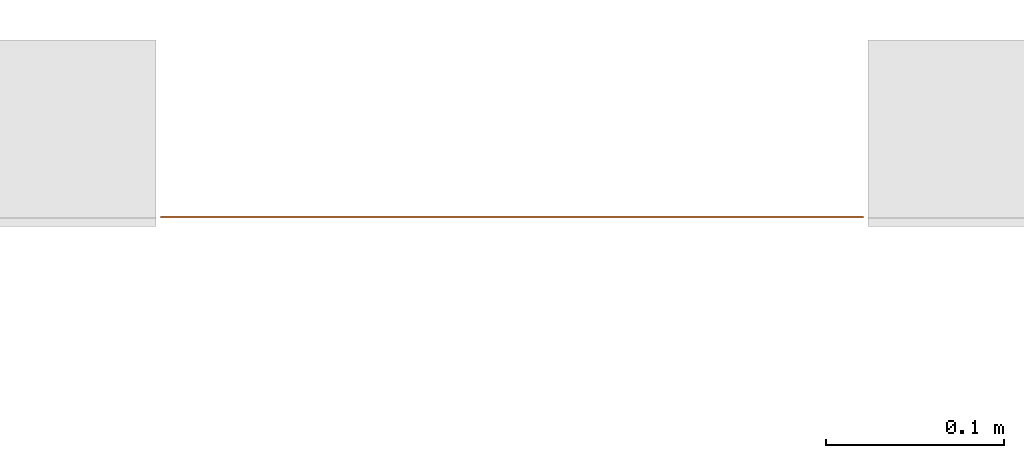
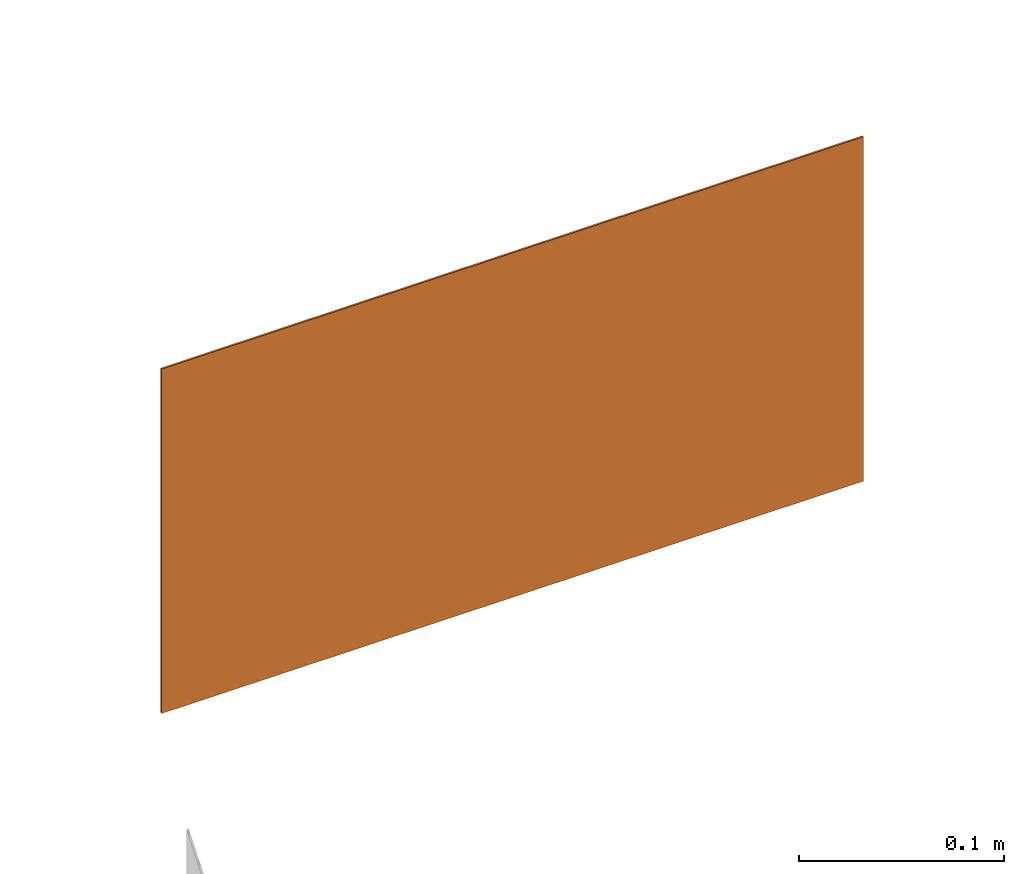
# One storey, part 67 of 119: 1 proxy.
"""IFC2X3 building model written with IfcOpenShell, lengths in metres."""

from ifc_helpers import new_model, entity, si_unit, converted_unit, derived_unit, direction, frame, frame_2d, origin, origin_2d_with_axis, place, context, subcontext, project, spatial, polyline, circle_curve, parameter, trimmed, segment, composite_curve, rectangle, outline, extrude, source, transform, mapped, material, material_list, type_object, type_shapes, element, save


model = new_model("IFC2X3")

# Units and contexts
model_context = context("Model", 3, precision=1e-05, world=origin(), true_north=direction((6.12303176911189e-17, 1.0)))
body_context = subcontext(model_context, "Body", "Model", "MODEL_VIEW")
ifc_project = project(units=[si_unit("LENGTHUNIT", "METRE"), si_unit("AREAUNIT", "SQUARE_METRE"), si_unit("VOLUMEUNIT", "CUBIC_METRE"), converted_unit("PLANEANGLEUNIT", "DEGREE", entity("IfcRatioMeasure", 0.0174532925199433), si_unit("PLANEANGLEUNIT", "RADIAN"), dimensions=[0, 0, 0, 0, 0, 0, 0]), si_unit("MASSUNIT", "GRAM", prefix="KILO"), derived_unit("MASSDENSITYUNIT", [(si_unit("MASSUNIT", "GRAM", prefix="KILO"), 1), (si_unit("LENGTHUNIT", "METRE"), -3)]), derived_unit("MOMENTOFINERTIAUNIT", [(si_unit("LENGTHUNIT", "METRE"), 4)]), si_unit("TIMEUNIT", "SECOND"), si_unit("FREQUENCYUNIT", "HERTZ"), si_unit("THERMODYNAMICTEMPERATUREUNIT", "DEGREE_CELSIUS"), derived_unit("THERMALTRANSMITTANCEUNIT", [(si_unit("MASSUNIT", "GRAM", prefix="KILO"), 1), (si_unit("THERMODYNAMICTEMPERATUREUNIT", "KELVIN"), -1), (si_unit("TIMEUNIT", "SECOND"), -3)]), derived_unit("VOLUMETRICFLOWRATEUNIT", [(si_unit("LENGTHUNIT", "METRE"), 3), (si_unit("TIMEUNIT", "SECOND"), -1)]), si_unit("ELECTRICCURRENTUNIT", "AMPERE"), si_unit("ELECTRICVOLTAGEUNIT", "VOLT"), si_unit("POWERUNIT", "WATT"), si_unit("FORCEUNIT", "NEWTON", prefix="KILO"), si_unit("ILLUMINANCEUNIT", "LUX"), si_unit("LUMINOUSFLUXUNIT", "LUMEN"), si_unit("LUMINOUSINTENSITYUNIT", "CANDELA"), derived_unit("USERDEFINED", [(si_unit("MASSUNIT", "GRAM", prefix="KILO"), -1), (si_unit("LENGTHUNIT", "METRE"), -2), (si_unit("TIMEUNIT", "SECOND"), 3), (si_unit("LUMINOUSFLUXUNIT", "LUMEN"), 1)]), derived_unit("LINEARVELOCITYUNIT", [(si_unit("LENGTHUNIT", "METRE"), 1), (si_unit("TIMEUNIT", "SECOND"), -1)]), si_unit("PRESSUREUNIT", "PASCAL"), derived_unit("USERDEFINED", [(si_unit("LENGTHUNIT", "METRE"), -2), (si_unit("MASSUNIT", "GRAM", prefix="KILO"), 1), (si_unit("TIMEUNIT", "SECOND"), -2)]), derived_unit("LINEARFORCEUNIT", [(si_unit("MASSUNIT", "GRAM", prefix="KILO"), 1), (si_unit("LENGTHUNIT", "METRE"), 1), (si_unit("TIMEUNIT", "SECOND"), -2), (si_unit("LENGTHUNIT", "METRE"), -1)]), derived_unit("PLANARFORCEUNIT", [(si_unit("MASSUNIT", "GRAM", prefix="KILO"), 1), (si_unit("LENGTHUNIT", "METRE"), 1), (si_unit("TIMEUNIT", "SECOND"), -2), (si_unit("LENGTHUNIT", "METRE"), -2)])], contexts=[model_context])

# Site, building, storey
site_placement = place(None, origin())
site = spatial("IfcSite", under=ifc_project, at=site_placement, Name="Default", CompositionType="ELEMENT")
building_placement = place(site_placement, origin())
building = spatial("IfcBuilding", under=site, at=building_placement, CompositionType="ELEMENT")
storey_placement = place(building_placement, origin())
storey = spatial("IfcBuildingStorey", under=building, at=storey_placement, Name="PAV. 01 - TÉRREO", CompositionType="ELEMENT", Elevation=0.0)

# Proxy
ifc_material_1 = material(Name="Plastico branco")
ifc_material_2 = material(Name="Plastico Verde")
ifc_material_list = material_list([ifc_material_1, ifc_material_2])
building_element_proxy_type = type_object("IfcBuildingElementProxyType", Name="Sinalização de orientação - S02 - Indicação do sentido da saída de emergência esquerda:Distância 12m", PredefinedType="NOTDEFINED", material=ifc_material_1)
shared_shape = source(origin(), body_context, "Body", "SweptSolid", [
    extrude(outline(polyline([(-0.0269307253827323, -0.024231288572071), (-0.0259628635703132, -0.024231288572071), (-0.0248498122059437, -0.0234083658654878), (-0.0236286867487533, -0.0219305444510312), (-0.0223366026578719, -0.0199658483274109), (-0.0210106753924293, -0.0176823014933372), (-0.0159905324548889, -0.00832626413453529), (-0.0136800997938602, -0.00426313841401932), (-0.0125256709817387, -0.00238736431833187), (-0.0113513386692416, -0.000610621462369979), (-0.0101417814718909, 0.0010707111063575), (-0.00888166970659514, 0.00266026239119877), (-0.00754048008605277, 0.00417640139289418), (-0.00604105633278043, 0.00568273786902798), (-0.00429732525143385, 0.00725153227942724), (-0.00222321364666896, 0.00895504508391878), (0.000267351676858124, 0.010865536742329), (0.0161156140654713, 0.0220225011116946), (0.00541084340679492, 0.027666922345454), (0.004563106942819, 0.0280964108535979), (0.00398677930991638, 0.0283743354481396), (0.00361343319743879, 0.0285356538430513), (0.00337464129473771, 0.0286153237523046), (0.0032019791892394, 0.0286482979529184), (0.00303386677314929, 0.0286578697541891), (0.00283021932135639, 0.0286307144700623), (0.00255516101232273, 0.02854633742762), (0.00217281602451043, 0.0283842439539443), (0.00164730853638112, 0.0281239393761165), (0.000942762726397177, 0.0277449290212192), (-0.0154440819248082, 0.0179800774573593), (-0.0169906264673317, 0.0173662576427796), (-0.0184263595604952, 0.0170104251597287), (-0.0197467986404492, 0.0168906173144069), (-0.0209474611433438, 0.0169848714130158), (-0.0220238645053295, 0.017271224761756), (-0.0229715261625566, 0.0177277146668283), (-0.0237859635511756, 0.0183323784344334), (-0.0244626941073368, 0.0190632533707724), (-0.0249972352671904, 0.0198983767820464), (-0.025385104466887, 0.0208157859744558), (-0.0256218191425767, 0.0217935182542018), (-0.02570289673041, 0.0228096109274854), (-0.0256238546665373, 0.023842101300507), (-0.0253802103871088, 0.024869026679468), (-0.024967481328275, 0.0258684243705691), (-0.0243811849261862, 0.026818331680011), (-0.0236168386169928, 0.0276967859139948), (-0.022669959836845, 0.0284818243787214), (-0.012358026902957, 0.0349145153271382), (-0.0056365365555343, 0.0389186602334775), (-0.00143098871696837, 0.0410123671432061), (0.00133311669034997, 0.0417137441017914), (0.00371952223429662, 0.0415365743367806), (0.00635115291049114, 0.0408174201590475), (0.00926485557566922, 0.0396572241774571), (0.0124569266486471, 0.0381406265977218), (0.0382522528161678, 0.0245317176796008), (0.0409647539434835, 0.0230291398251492), (0.0432264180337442, 0.021505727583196), (0.0450948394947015, 0.0197223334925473), (0.0466276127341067, 0.0174398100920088), (0.0478823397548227, 0.0144190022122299), (0.0489477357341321, 0.0103891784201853), (0.0500145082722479, 0.00497609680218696), (0.0529984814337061, -0.0115815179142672), (0.0687826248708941, -0.0199385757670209), (0.101976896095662, 0.0427561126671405), (0.00232291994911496, 0.0955188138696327), (-0.0513007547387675, -0.00576130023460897), (-0.0561261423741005, -0.00320645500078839), (-0.0853051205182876, -0.0156605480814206), (-0.0628396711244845, -0.0275550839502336), (-0.0734521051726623, -0.0475990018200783), (-0.0904241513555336, -0.0529832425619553), (-0.0204118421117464, -0.0900518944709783), (-0.00292720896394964, -0.0849390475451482), (0.0122206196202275, -0.0929592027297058), (-0.00693758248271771, -0.0971859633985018), (0.00953030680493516, -0.105905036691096), (0.0262018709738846, -0.100361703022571), (0.0628213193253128, -0.0311978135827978), (0.0451218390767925, -0.0218302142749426), (0.0436304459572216, -0.0209809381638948), (0.0424868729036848, -0.020192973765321), (0.041614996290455, -0.0193663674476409), (0.0409386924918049, -0.0184011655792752), (0.0403818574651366, -0.0171974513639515), (0.0398810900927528, -0.0156792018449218), (0.0394075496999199, -0.0138354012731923), (0.0389382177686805, -0.0116659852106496), (0.0366426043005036, 0.000269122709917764), (0.0172569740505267, -0.0138624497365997), (0.0147941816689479, -0.0880984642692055), (-0.000353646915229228, -0.0800783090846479), (-0.000324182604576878, -0.0142849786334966), (-0.0124368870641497, -0.0319051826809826), (-0.0138384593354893, -0.0341119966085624), (-0.0151491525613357, -0.0360250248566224), (-0.0164165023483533, -0.0376353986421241), (-0.0176880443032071, -0.0389342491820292), (-0.0190113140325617, -0.0399127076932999), (-0.0204338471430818, -0.0405619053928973), (-0.0220031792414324, -0.0408729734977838), (-0.0237668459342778, -0.0408370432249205), (-0.025772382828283, -0.0404452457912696), (-0.0280673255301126, -0.0396887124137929), (-0.0306992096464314, -0.0385585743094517), (-0.0337155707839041, -0.0370459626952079), (-0.0714172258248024, -0.0170844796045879), (-0.0536029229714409, -0.0101094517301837), (-0.0269307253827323, -0.024231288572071)]), holes=[composite_curve([segment(trimmed(circle_curve(frame_2d((0.0517161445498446, 0.0359195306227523), x_axis=(0.883770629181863, -0.46792037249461)), 0.0134), [parameter(180.0)], [parameter(360.0)], True, "PARAMETER"), False, "CONTINUOUS"), segment(trimmed(circle_curve(frame_2d((0.0517161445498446, 0.0359195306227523), x_axis=(0.883770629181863, -0.46792037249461)), 0.0134), [parameter(2.03555499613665e-13)], [parameter(180.0)], True, "PARAMETER"), False, "CONTINUOUS")], self_intersect=False)]), frame((0.112957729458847, -0.00110000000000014, 1.90431633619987), z_axis=(0.0, 1.0, 0.0), x_axis=(-0.883770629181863, 0.0, 0.46792037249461)), (0.0, 0.0, 1.0), 0.0011),
    extrude(outline(polyline([(-0.197500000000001, -0.102500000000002), (0.197500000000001, -0.102500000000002), (0.197500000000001, 0.102500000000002), (-0.197500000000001, 0.102500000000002), (-0.197500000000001, -0.102500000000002)]), holes=[polyline([(-0.190000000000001, -0.0950000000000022), (-0.190000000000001, 0.0949999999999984), (0.189999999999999, 0.0949999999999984), (0.189999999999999, -0.0950000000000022), (-0.190000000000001, -0.0950000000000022)])]), frame((0.0, -0.0011, 1.9025), z_axis=(0.0, 1.0, 0.0), x_axis=(1.0, 0.0, 0.0)), (0.0, 0.0, 1.0), 0.0011),
    extrude(rectangle(XDim=0.38, YDim=0.001, at=origin_2d_with_axis()), frame((0.0, -0.0005, 1.8075)), (0.0, 0.0, 1.0), 0.190000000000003),
    extrude(outline(polyline([(-0.0341511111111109, -0.0575999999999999), (0.016628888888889, -0.0575999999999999), (-0.0218311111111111, -0.0191399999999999), (0.0852288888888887, -0.0191399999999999), (0.0852288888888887, 0.0191400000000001), (-0.0218311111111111, 0.0191400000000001), (0.016628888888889, 0.0576000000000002), (-0.0341511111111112, 0.0576000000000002), (-0.0917511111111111, 0.0), (-0.0341511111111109, -0.0575999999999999)])), frame((-0.0852288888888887, -0.0011, 1.9025), z_axis=(0.0, 1.0, 0.0), x_axis=(1.0, 0.0, 0.0)), (0.0, 0.0, 1.0), 0.0011),
])
type_shapes(building_element_proxy_type, [shared_shape])
proxy_placement = place(storey_placement, frame((46.673824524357, 23.2286556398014, 0.0), z_axis=(0.0, 0.0, 1.0), x_axis=(-1.0, 0.0, 0.0)))
element("IfcBuildingElementProxy", 1, at=proxy_placement, inside=storey, type_object=building_element_proxy_type, material=ifc_material_list, Name="Sinalização de orientação - S02 - Indicação do sentido da saída de emergência esquerda:Distância 12m", ObjectType="Sinalização de orientação - S02 - Indicação do sentido da saída de emergência esquerda:Distância 12m", context=body_context, shape_type="MappedRepresentation", body=[
    mapped(shared_shape, transform((0.0, 0.0, 0.0), scale=1.0)),
])

save(model, "model.ifc")
